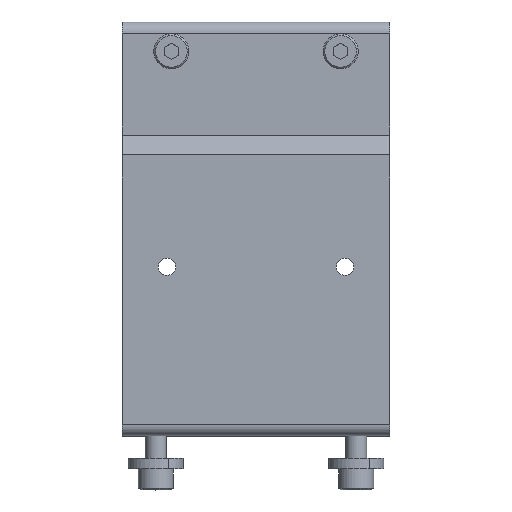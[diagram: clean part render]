
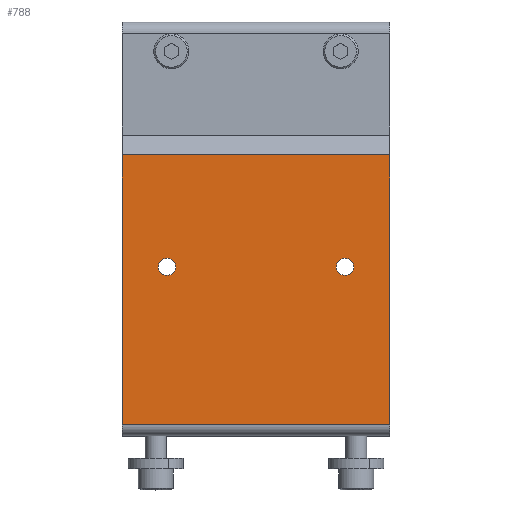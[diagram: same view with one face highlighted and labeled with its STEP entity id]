
A CAD part, top view. The second image highlights one B-rep face of the part: STEP entity #788.
In plain terms, the highlighted planar face has unit normal (0, 0, 1) as drawn and (0, 0, -1) by its records, which use the part's own axes.
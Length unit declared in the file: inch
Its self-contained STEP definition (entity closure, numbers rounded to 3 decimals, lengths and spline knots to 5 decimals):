
#9=DIRECTION('',(0.,-1.,0.));
#10=VECTOR('',#9,3.03);
#11=CARTESIAN_POINT('',(-1.5,3.155,0.));
#12=LINE('',#11,#10);
#107=DIRECTION('',(0.,-1.,0.));
#108=VECTOR('',#107,3.03);
#109=CARTESIAN_POINT('',(1.5,3.155,0.));
#110=LINE('',#109,#108);
#111=DIRECTION('',(1.,0.,0.));
#112=VECTOR('',#111,3.);
#113=CARTESIAN_POINT('',(-1.5,3.155,0.));
#114=LINE('',#113,#112);
#115=CARTESIAN_POINT('',(-1.,1.898,0.));
#116=DIRECTION('',(0.,0.,1.));
#117=DIRECTION('',(1.,0.,0.));
#118=AXIS2_PLACEMENT_3D('',#115,#116,#117);
#120=CARTESIAN_POINT('',(-1.,1.898,0.));
#121=DIRECTION('',(0.,0.,1.));
#122=DIRECTION('',(-1.,0.,0.));
#123=AXIS2_PLACEMENT_3D('',#120,#121,#122);
#125=CARTESIAN_POINT('',(1.,1.898,0.));
#126=DIRECTION('',(0.,0.,1.));
#127=DIRECTION('',(1.,0.,0.));
#128=AXIS2_PLACEMENT_3D('',#125,#126,#127);
#130=CARTESIAN_POINT('',(1.,1.898,0.));
#131=DIRECTION('',(0.,0.,1.));
#132=DIRECTION('',(-1.,0.,0.));
#133=AXIS2_PLACEMENT_3D('',#130,#131,#132);
#389=DIRECTION('',(1.,0.,0.));
#390=VECTOR('',#389,3.);
#391=CARTESIAN_POINT('',(-1.5,0.125,0.));
#392=LINE('',#391,#390);
#532=CARTESIAN_POINT('',(1.5,0.125,0.));
#534=VERTEX_POINT('',#532);
#543=CARTESIAN_POINT('',(1.097,1.898,0.));
#545=VERTEX_POINT('',#543);
#585=CARTESIAN_POINT('',(-1.097,1.898,0.));
#587=VERTEX_POINT('',#585);
#607=CARTESIAN_POINT('',(1.5,3.155,0.));
#609=VERTEX_POINT('',#607);
#629=CARTESIAN_POINT('',(-1.5,0.125,0.));
#630=VERTEX_POINT('',#629);
#659=CARTESIAN_POINT('',(-1.5,3.155,0.));
#660=VERTEX_POINT('',#659);
#669=CARTESIAN_POINT('',(0.903,1.898,0.));
#670=VERTEX_POINT('',#669);
#683=CARTESIAN_POINT('',(-0.903,1.898,0.));
#684=VERTEX_POINT('',#683);
#762=CARTESIAN_POINT('',(1.5,0.,0.));
#763=DIRECTION('',(0.,0.,1.));
#764=DIRECTION('',(1.,0.,0.));
#765=AXIS2_PLACEMENT_3D('',#762,#763,#764);
#766=PLANE('',#765);
#768=ORIENTED_EDGE('',*,*,#767,.F.);
#770=ORIENTED_EDGE('',*,*,#769,.F.);
#771=ORIENTED_EDGE('',*,*,#712,.T.);
#773=ORIENTED_EDGE('',*,*,#772,.T.);
#774=EDGE_LOOP('',(#768,#770,#771,#773));
#775=FACE_OUTER_BOUND('',#774,.F.);
#777=ORIENTED_EDGE('',*,*,#776,.F.);
#779=ORIENTED_EDGE('',*,*,#778,.F.);
#780=EDGE_LOOP('',(#777,#779));
#781=FACE_BOUND('',#780,.F.);
#783=ORIENTED_EDGE('',*,*,#782,.F.);
#785=ORIENTED_EDGE('',*,*,#784,.F.);
#786=EDGE_LOOP('',(#783,#785));
#787=FACE_BOUND('',#786,.F.);
#119=CIRCLE('',#118,0.097);
#124=CIRCLE('',#123,0.097);
#129=CIRCLE('',#128,0.097);
#134=CIRCLE('',#133,0.097);
#712=EDGE_CURVE('',#660,#630,#12,.T.);
#767=EDGE_CURVE('',#609,#534,#110,.T.);
#769=EDGE_CURVE('',#660,#609,#114,.T.);
#772=EDGE_CURVE('',#630,#534,#392,.T.);
#776=EDGE_CURVE('',#684,#587,#119,.T.);
#778=EDGE_CURVE('',#587,#684,#124,.T.);
#782=EDGE_CURVE('',#545,#670,#129,.T.);
#784=EDGE_CURVE('',#670,#545,#134,.T.);
#788=ADVANCED_FACE('',(#775,#781,#787),#766,.F.);
